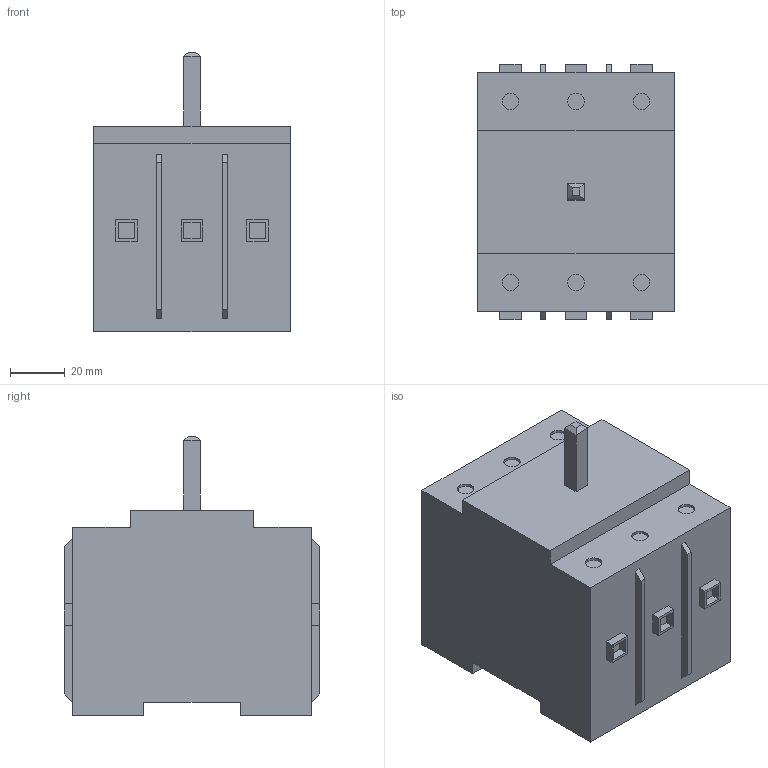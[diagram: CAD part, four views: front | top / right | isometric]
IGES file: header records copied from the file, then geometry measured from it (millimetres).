
Start section:  PTC IGES file: D:\PartsXML Tools\RobotParts\Generation\Test_dotCAD\CAD\ Temp\bloc_nu_022170.igs
Global section: file name: D:\PartsXML Tools\RobotParts\Generation\Test_dotCAD\CAD\Temp\bloc_nu_022170.igs; native system:  by Parametric Technology Corporation; preprocessor: 2013430; organization: Unknown; date: 20190109.090003; units: millimetre
Bounding box: 71.8 x 93 x 102 mm (x, y, z)
Volume: 439877.6 mm3; surface area: 39285.8 mm2
Topology: 1 solids, 1 shells, 121 faces, 284 edges, 188 vertices
Faces by surface type: bspline 109, revolution 12
